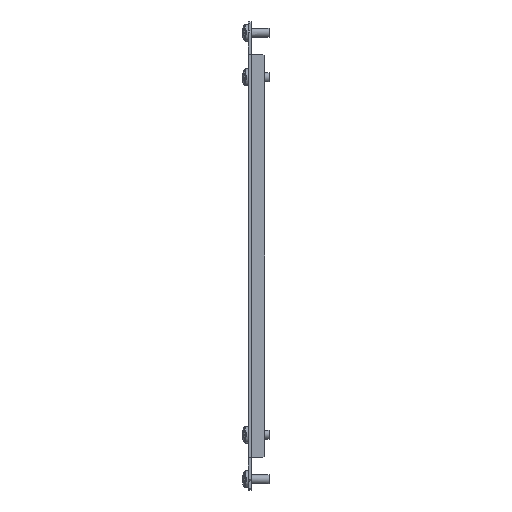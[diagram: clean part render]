
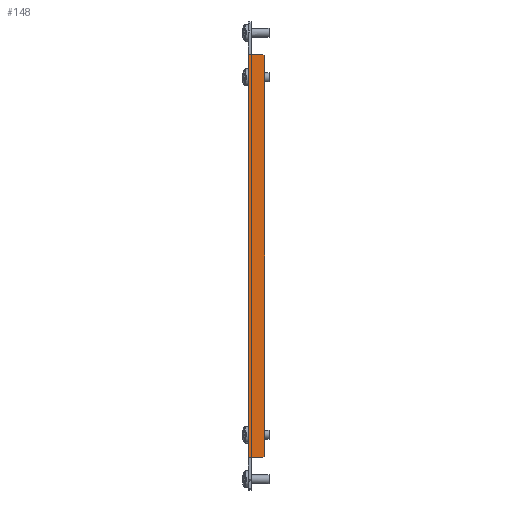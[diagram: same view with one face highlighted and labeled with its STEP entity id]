
A CAD part, left-side view. The second image highlights one B-rep face of the part: STEP entity #148.
In plain terms, the highlighted planar face has unit normal (-1, 0, 0) as drawn and (1, 0, 0) by its records, which use the part's own axes.
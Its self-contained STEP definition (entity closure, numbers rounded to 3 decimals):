
#55 = DIRECTION ( 'NONE',  ( 0., -1., 0. ) ) ;
#82 = VERTEX_POINT ( 'NONE', #2741 ) ;
#105 = DIRECTION ( 'NONE',  ( 0., 0., 1. ) ) ;
#114 = DIRECTION ( 'NONE',  ( 0., 0.707, 0.707 ) ) ;
#125 = CARTESIAN_POINT ( 'NONE',  ( 734., 0., -9. ) ) ;
#126 = EDGE_CURVE ( 'NONE', #82, #1987, #2200, .T. ) ;
#141 = LINE ( 'NONE', #125, #1818 ) ;
#145 = VECTOR ( 'NONE', #105, 1000. ) ;
#148 = ADVANCED_FACE ( 'NONE', ( #706 ), #1727, .F. ) ;
#256 = VECTOR ( 'NONE', #114, 1000. ) ;
#257 = CARTESIAN_POINT ( 'NONE',  ( 734., 113., 0. ) ) ;
#265 = CARTESIAN_POINT ( 'NONE',  ( 734., 0., 0. ) ) ;
#275 = EDGE_CURVE ( 'NONE', #3048, #2618, #3010, .T. ) ;
#295 = LINE ( 'NONE', #265, #1864 ) ;
#411 = LINE ( 'NONE', #676, #1486 ) ;
#454 = VECTOR ( 'NONE', #1490, 1000. ) ;
#529 = EDGE_CURVE ( 'NONE', #1759, #2740, #2414, .T. ) ;
#676 = CARTESIAN_POINT ( 'NONE',  ( 734., -113., 0. ) ) ;
#706 = FACE_OUTER_BOUND ( 'NONE', #1101, .T. ) ;
#734 = CARTESIAN_POINT ( 'NONE',  ( 734., -113., -2.1 ) ) ;
#792 = DIRECTION ( 'NONE',  ( 0., 0., 1. ) ) ;
#898 = CARTESIAN_POINT ( 'NONE',  ( 734., -112., -9. ) ) ;
#934 = VERTEX_POINT ( 'NONE', #2128 ) ;
#1007 = EDGE_CURVE ( 'NONE', #3048, #82, #411, .T. ) ;
#1029 = DIRECTION ( 'NONE',  ( 0., 0., 1. ) ) ;
#1056 = ORIENTED_EDGE ( 'NONE', *, *, #3237, .T. ) ;
#1101 = EDGE_LOOP ( 'NONE', ( #2141, #1520, #2840, #1056, #1951, #2725, #3122, #1426 ) ) ;
#1171 = CARTESIAN_POINT ( 'NONE',  ( 734., -112., -9. ) ) ;
#1193 = VECTOR ( 'NONE', #1433, 1000. ) ;
#1426 = ORIENTED_EDGE ( 'NONE', *, *, #126, .T. ) ;
#1433 = DIRECTION ( 'NONE',  ( 0., 0.707, -0.707 ) ) ;
#1486 = VECTOR ( 'NONE', #2673, 1000. ) ;
#1490 = DIRECTION ( 'NONE',  ( 0., 0., 1. ) ) ;
#1520 = ORIENTED_EDGE ( 'NONE', *, *, #2541, .T. ) ;
#1581 = EDGE_CURVE ( 'NONE', #2070, #2618, #295, .T. ) ;
#1686 = EDGE_CURVE ( 'NONE', #1987, #934, #141, .T. ) ;
#1727 = PLANE ( 'NONE',  #1946 ) ;
#1759 = VERTEX_POINT ( 'NONE', #2697 ) ;
#1818 = VECTOR ( 'NONE', #2415, 1000. ) ;
#1835 = CARTESIAN_POINT ( 'NONE',  ( 734., 113., -2.1 ) ) ;
#1851 = CARTESIAN_POINT ( 'NONE',  ( 734., 113., 0. ) ) ;
#1864 = VECTOR ( 'NONE', #55, 1000. ) ;
#1946 = AXIS2_PLACEMENT_3D ( 'NONE', #3282, #2010, #1029 ) ;
#1951 = ORIENTED_EDGE ( 'NONE', *, *, #1581, .T. ) ;
#1987 = VERTEX_POINT ( 'NONE', #1171 ) ;
#2010 = DIRECTION ( 'NONE',  ( -1., 0., 0. ) ) ;
#2070 = VERTEX_POINT ( 'NONE', #257 ) ;
#2128 = CARTESIAN_POINT ( 'NONE',  ( 734., 112., -9. ) ) ;
#2141 = ORIENTED_EDGE ( 'NONE', *, *, #1686, .T. ) ;
#2200 = LINE ( 'NONE', #898, #1193 ) ;
#2414 = LINE ( 'NONE', #1851, #145 ) ;
#2415 = DIRECTION ( 'NONE',  ( 0., 1., 0. ) ) ;
#2541 = EDGE_CURVE ( 'NONE', #934, #1759, #3192, .T. ) ;
#2573 = CARTESIAN_POINT ( 'NONE',  ( 734., 113., -2.1 ) ) ;
#2618 = VERTEX_POINT ( 'NONE', #2979 ) ;
#2673 = DIRECTION ( 'NONE',  ( 0., 0., -1. ) ) ;
#2697 = CARTESIAN_POINT ( 'NONE',  ( 734., 113., -8. ) ) ;
#2708 = CARTESIAN_POINT ( 'NONE',  ( 734., 113., -8. ) ) ;
#2725 = ORIENTED_EDGE ( 'NONE', *, *, #275, .F. ) ;
#2740 = VERTEX_POINT ( 'NONE', #2573 ) ;
#2741 = CARTESIAN_POINT ( 'NONE',  ( 734., -113., -8. ) ) ;
#2840 = ORIENTED_EDGE ( 'NONE', *, *, #529, .T. ) ;
#2979 = CARTESIAN_POINT ( 'NONE',  ( 734., -113., 0. ) ) ;
#3010 = LINE ( 'NONE', #3075, #454 ) ;
#3048 = VERTEX_POINT ( 'NONE', #734 ) ;
#3075 = CARTESIAN_POINT ( 'NONE',  ( 734., -113., 0. ) ) ;
#3102 = LINE ( 'NONE', #1835, #3158 ) ;
#3122 = ORIENTED_EDGE ( 'NONE', *, *, #1007, .T. ) ;
#3158 = VECTOR ( 'NONE', #792, 1000. ) ;
#3192 = LINE ( 'NONE', #2708, #256 ) ;
#3237 = EDGE_CURVE ( 'NONE', #2740, #2070, #3102, .T. ) ;
#3282 = CARTESIAN_POINT ( 'NONE',  ( 734., 0., 0. ) ) ;
